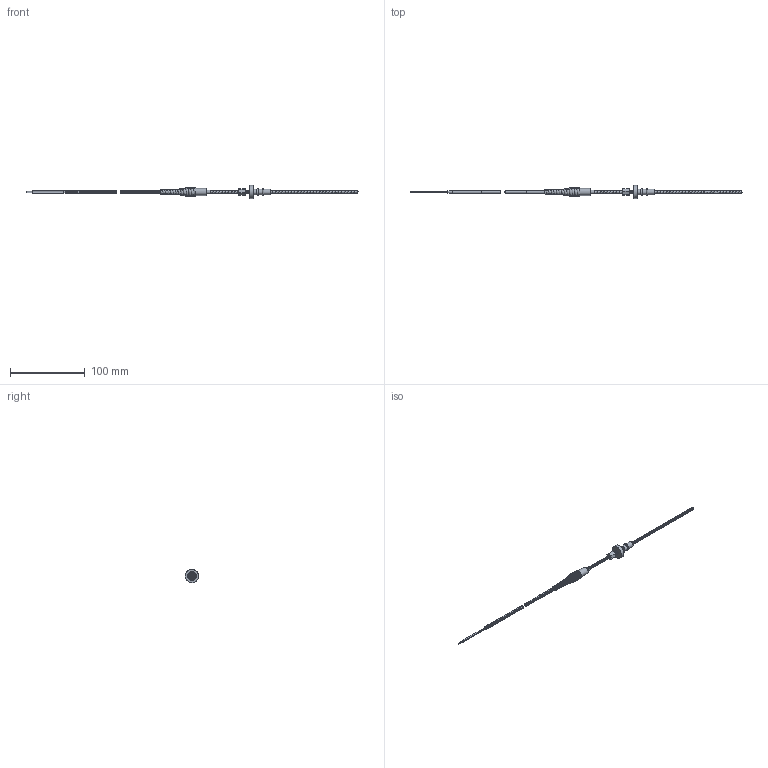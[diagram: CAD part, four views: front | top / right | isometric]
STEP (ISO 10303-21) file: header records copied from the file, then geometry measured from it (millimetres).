
FILE_DESCRIPTION(/* description */ (''),/* implementation_level */ '2;1');
FILE_NAME(/* name */ 'A:\ODTC\ODTC with Fitting.stp',/* time_stamp */ '2020-03-19T14:53:36-04:00',/* author */ ('JN Desktop'),/* organization */ (''),/* preprocessor_version */ 'ST-DEVELOPER v18',/* originating_system */ 'Autodesk Inventor 2020',/* authorisation */ '');
FILE_SCHEMA (('AUTOMOTIVE_DESIGN { 1 0 10303 214 3 1 1 }'));
Products named in the file (3): ODTC with Fitting; ODTC_Shrinkwrap_1; Fitting_Shrinkwrap
Assembly tree (2 placements, depth 2):
  ODTC with Fitting
    ODTC_Shrinkwrap_1
    Fitting_Shrinkwrap
Bounding box: 443.94 x 17.52 x 17.52 mm (x, y, z)
Volume: 7695 mm3; surface area: 19679.9 mm2
Topology: 18 solids, 18 shells, 469 faces, 1251 edges, 824 vertices
Faces by surface type: cylinder 365, plane 74, sphere 13, bspline 8, torus 8, cone 1
Full cylindrical faces by diameter (mm): 0.254 x2, 0.762 x2, 1.27 x2, 1.587 x254, 3.175 x1, 3.2 x2, 4.826 x3, 5.779 x2, 7.366 x3, 9.398 x1, 17.526 x1
Entity records: 53827 total; most frequent: CARTESIAN_POINT 42257, ORIENTED_EDGE 2500, DIRECTION 1931, EDGE_CURVE 1250, VERTEX_POINT 825, AXIS2_PLACEMENT_3D 737, B_SPLINE_CURVE_WITH_KNOTS 521, EDGE_LOOP 495
